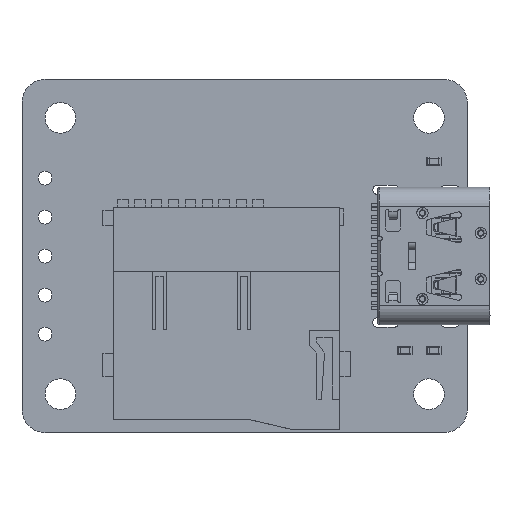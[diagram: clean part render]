
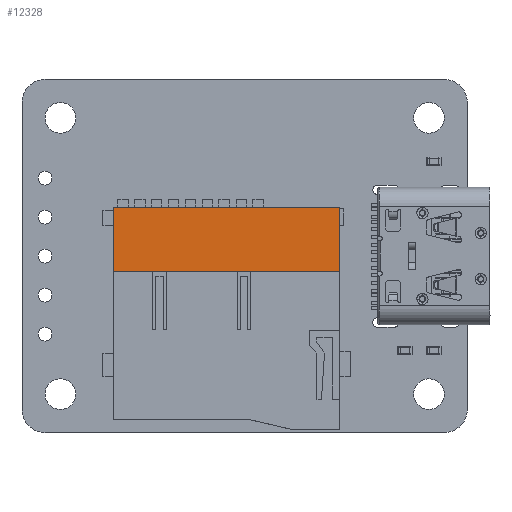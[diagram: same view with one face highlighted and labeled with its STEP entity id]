
A CAD part, top view. The second image highlights one B-rep face of the part: STEP entity #12328.
In plain terms, the highlighted planar face has unit normal (0, 0, 1).
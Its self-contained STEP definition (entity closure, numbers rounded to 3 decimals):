
#12014 = VERTEX_POINT('',#12015);
#12015 = CARTESIAN_POINT('',(7.374,2.099,0.1));
#12022 = PLANE('',#12023);
#12023 = AXIS2_PLACEMENT_3D('',#12024,#12025,#12026);
#12024 = CARTESIAN_POINT('',(7.374,2.099,0.));
#12025 = DIRECTION('',(1.,0.,0.));
#12026 = DIRECTION('',(0.,-1.,0.));
#12034 = PLANE('',#12035);
#12035 = AXIS2_PLACEMENT_3D('',#12036,#12037,#12038);
#12036 = CARTESIAN_POINT('',(-7.374,2.099,0.));
#12037 = DIRECTION('',(0.,1.,0.));
#12038 = DIRECTION('',(1.,0.,0.));
#12046 = EDGE_CURVE('',#12014,#12047,#12049,.T.);
#12047 = VERTEX_POINT('',#12048);
#12048 = CARTESIAN_POINT('',(7.374,-2.099,0.1));
#12049 = SURFACE_CURVE('',#12050,(#12054,#12061),.PCURVE_S1.);
#12050 = LINE('',#12051,#12052);
#12051 = CARTESIAN_POINT('',(7.374,2.099,0.1));
#12052 = VECTOR('',#12053,1.);
#12053 = DIRECTION('',(0.,-1.,0.));
#12054 = PCURVE('',#12022,#12055);
#12055 = DEFINITIONAL_REPRESENTATION('',(#12056),#12060);
#12056 = LINE('',#12057,#12058);
#12057 = CARTESIAN_POINT('',(0.,-0.1));
#12058 = VECTOR('',#12059,1.);
#12059 = DIRECTION('',(1.,0.));
#12060 = ( GEOMETRIC_REPRESENTATION_CONTEXT(2) 
PARAMETRIC_REPRESENTATION_CONTEXT() REPRESENTATION_CONTEXT('2D SPACE',''
  ) );
#12061 = PCURVE('',#12062,#12067);
#12062 = PLANE('',#12063);
#12063 = AXIS2_PLACEMENT_3D('',#12064,#12065,#12066);
#12064 = CARTESIAN_POINT('',(7.374,2.099,0.1));
#12065 = DIRECTION('',(0.,0.,1.));
#12066 = DIRECTION('',(1.,0.,0.));
#12067 = DEFINITIONAL_REPRESENTATION('',(#12068),#12072);
#12068 = LINE('',#12069,#12070);
#12069 = CARTESIAN_POINT('',(0.,0.));
#12070 = VECTOR('',#12071,1.);
#12071 = DIRECTION('',(0.,-1.));
#12072 = ( GEOMETRIC_REPRESENTATION_CONTEXT(2) 
PARAMETRIC_REPRESENTATION_CONTEXT() REPRESENTATION_CONTEXT('2D SPACE',''
  ) );
#12090 = PLANE('',#12091);
#12091 = AXIS2_PLACEMENT_3D('',#12092,#12093,#12094);
#12092 = CARTESIAN_POINT('',(7.374,-2.099,0.));
#12093 = DIRECTION('',(0.,-1.,0.));
#12094 = DIRECTION('',(-1.,0.,0.));
#12132 = EDGE_CURVE('',#12047,#12133,#12135,.T.);
#12133 = VERTEX_POINT('',#12134);
#12134 = CARTESIAN_POINT('',(-7.374,-2.099,0.1));
#12135 = SURFACE_CURVE('',#12136,(#12140,#12147),.PCURVE_S1.);
#12136 = LINE('',#12137,#12138);
#12137 = CARTESIAN_POINT('',(7.374,-2.099,0.1));
#12138 = VECTOR('',#12139,1.);
#12139 = DIRECTION('',(-1.,0.,0.));
#12140 = PCURVE('',#12090,#12141);
#12141 = DEFINITIONAL_REPRESENTATION('',(#12142),#12146);
#12142 = LINE('',#12143,#12144);
#12143 = CARTESIAN_POINT('',(0.,-0.1));
#12144 = VECTOR('',#12145,1.);
#12145 = DIRECTION('',(1.,0.));
#12146 = ( GEOMETRIC_REPRESENTATION_CONTEXT(2) 
PARAMETRIC_REPRESENTATION_CONTEXT() REPRESENTATION_CONTEXT('2D SPACE',''
  ) );
#12147 = PCURVE('',#12062,#12148);
#12148 = DEFINITIONAL_REPRESENTATION('',(#12149),#12153);
#12149 = LINE('',#12150,#12151);
#12150 = CARTESIAN_POINT('',(0.,-4.199));
#12151 = VECTOR('',#12152,1.);
#12152 = DIRECTION('',(-1.,0.));
#12153 = ( GEOMETRIC_REPRESENTATION_CONTEXT(2) 
PARAMETRIC_REPRESENTATION_CONTEXT() REPRESENTATION_CONTEXT('2D SPACE',''
  ) );
#12171 = PLANE('',#12172);
#12172 = AXIS2_PLACEMENT_3D('',#12173,#12174,#12175);
#12173 = CARTESIAN_POINT('',(-7.374,-2.099,0.));
#12174 = DIRECTION('',(-1.,0.,0.));
#12175 = DIRECTION('',(0.,1.,0.));
#12208 = EDGE_CURVE('',#12133,#12209,#12211,.T.);
#12209 = VERTEX_POINT('',#12210);
#12210 = CARTESIAN_POINT('',(-7.374,2.099,0.1));
#12211 = SURFACE_CURVE('',#12212,(#12216,#12223),.PCURVE_S1.);
#12212 = LINE('',#12213,#12214);
#12213 = CARTESIAN_POINT('',(-7.374,-2.099,0.1));
#12214 = VECTOR('',#12215,1.);
#12215 = DIRECTION('',(0.,1.,0.));
#12216 = PCURVE('',#12171,#12217);
#12217 = DEFINITIONAL_REPRESENTATION('',(#12218),#12222);
#12218 = LINE('',#12219,#12220);
#12219 = CARTESIAN_POINT('',(0.,-0.1));
#12220 = VECTOR('',#12221,1.);
#12221 = DIRECTION('',(1.,0.));
#12222 = ( GEOMETRIC_REPRESENTATION_CONTEXT(2) 
PARAMETRIC_REPRESENTATION_CONTEXT() REPRESENTATION_CONTEXT('2D SPACE',''
  ) );
#12223 = PCURVE('',#12062,#12224);
#12224 = DEFINITIONAL_REPRESENTATION('',(#12225),#12229);
#12225 = LINE('',#12226,#12227);
#12226 = CARTESIAN_POINT('',(-14.749,-4.199));
#12227 = VECTOR('',#12228,1.);
#12228 = DIRECTION('',(0.,1.));
#12229 = ( GEOMETRIC_REPRESENTATION_CONTEXT(2) 
PARAMETRIC_REPRESENTATION_CONTEXT() REPRESENTATION_CONTEXT('2D SPACE',''
  ) );
#12279 = EDGE_CURVE('',#12209,#12014,#12280,.T.);
#12280 = SURFACE_CURVE('',#12281,(#12285,#12292),.PCURVE_S1.);
#12281 = LINE('',#12282,#12283);
#12282 = CARTESIAN_POINT('',(-7.374,2.099,0.1));
#12283 = VECTOR('',#12284,1.);
#12284 = DIRECTION('',(1.,0.,0.));
#12285 = PCURVE('',#12034,#12286);
#12286 = DEFINITIONAL_REPRESENTATION('',(#12287),#12291);
#12287 = LINE('',#12288,#12289);
#12288 = CARTESIAN_POINT('',(0.,-0.1));
#12289 = VECTOR('',#12290,1.);
#12290 = DIRECTION('',(1.,0.));
#12291 = ( GEOMETRIC_REPRESENTATION_CONTEXT(2) 
PARAMETRIC_REPRESENTATION_CONTEXT() REPRESENTATION_CONTEXT('2D SPACE',''
  ) );
#12292 = PCURVE('',#12062,#12293);
#12293 = DEFINITIONAL_REPRESENTATION('',(#12294),#12298);
#12294 = LINE('',#12295,#12296);
#12295 = CARTESIAN_POINT('',(-14.749,0.));
#12296 = VECTOR('',#12297,1.);
#12297 = DIRECTION('',(1.,0.));
#12298 = ( GEOMETRIC_REPRESENTATION_CONTEXT(2) 
PARAMETRIC_REPRESENTATION_CONTEXT() REPRESENTATION_CONTEXT('2D SPACE',''
  ) );
#12328 = ADVANCED_FACE('',(#12329),#12062,.T.);
#12329 = FACE_BOUND('',#12330,.F.);
#12330 = EDGE_LOOP('',(#12331,#12332,#12333,#12334));
#12331 = ORIENTED_EDGE('',*,*,#12046,.T.);
#12332 = ORIENTED_EDGE('',*,*,#12132,.T.);
#12333 = ORIENTED_EDGE('',*,*,#12208,.T.);
#12334 = ORIENTED_EDGE('',*,*,#12279,.T.);
